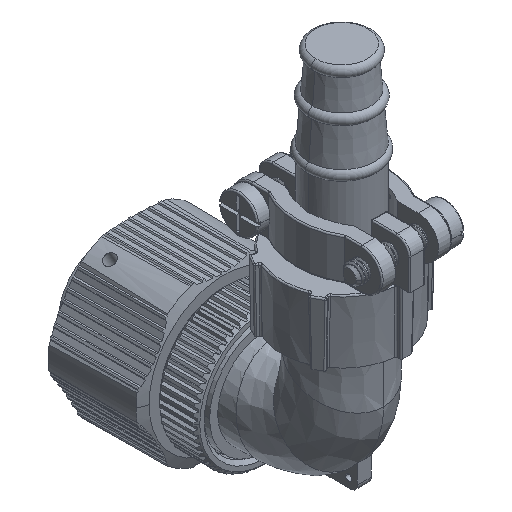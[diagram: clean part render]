
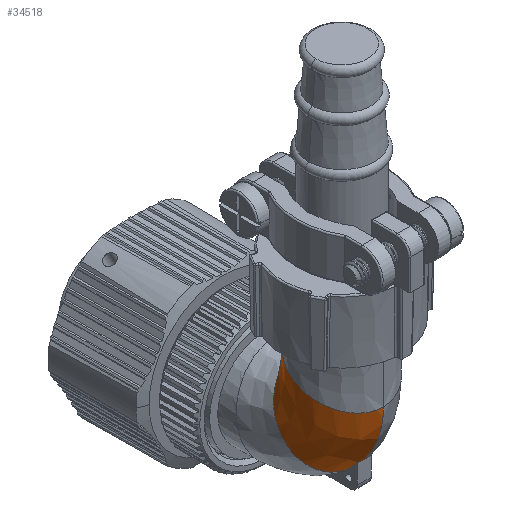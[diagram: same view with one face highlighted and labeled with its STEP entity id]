
A CAD part, isometric view. The second image highlights one B-rep face of the part: STEP entity #34518.
In plain terms, the highlighted free-form (B-spline) face has degree [3, 3] with [13, 4] control points.
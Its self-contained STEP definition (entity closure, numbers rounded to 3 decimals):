
#8429=CARTESIAN_POINT('',(12.492,14.016,-7.255));
#8474=CARTESIAN_POINT('',(11.492,4.616,-16.382));
#8475=CARTESIAN_POINT('',(11.492,4.779,-16.592));
#8476=CARTESIAN_POINT('',(11.492,5.118,-17.002));
#8477=CARTESIAN_POINT('',(11.492,5.664,-17.586));
#8478=CARTESIAN_POINT('',(11.492,6.05,-17.952));
#8479=CARTESIAN_POINT('',(11.492,6.249,-18.129));
#8481=CARTESIAN_POINT('',(11.492,6.249,-18.129));
#8482=CARTESIAN_POINT('',(10.952,6.297,-18.063));
#8483=CARTESIAN_POINT('',(9.567,6.521,-17.751));
#8484=CARTESIAN_POINT('',(7.612,7.283,-16.689));
#8485=CARTESIAN_POINT('',(6.116,8.58,-14.87));
#8486=CARTESIAN_POINT('',(5.591,10.107,-12.725));
#8487=CARTESIAN_POINT('',(6.116,11.635,-10.579));
#8488=CARTESIAN_POINT('',(7.612,12.935,-8.759));
#8489=CARTESIAN_POINT('',(9.851,13.809,-7.54));
#8490=CARTESIAN_POINT('',(11.612,14.016,-7.255));
#8491=CARTESIAN_POINT('',(12.492,14.016,-7.255));
#8493=CARTESIAN_POINT('',(12.492,1.816,-8.455));
#8494=CARTESIAN_POINT('',(11.674,1.816,-8.455));
#8495=CARTESIAN_POINT('',(10.04,2.138,-8.315));
#8496=CARTESIAN_POINT('',(7.961,3.501,-7.726));
#8497=CARTESIAN_POINT('',(6.572,5.528,-6.852));
#8498=CARTESIAN_POINT('',(6.084,7.915,-5.825));
#8499=CARTESIAN_POINT('',(6.572,10.302,-4.797));
#8500=CARTESIAN_POINT('',(7.961,12.33,-3.921));
#8501=CARTESIAN_POINT('',(10.04,13.693,-3.33));
#8502=CARTESIAN_POINT('',(11.674,14.016,-3.189));
#8503=CARTESIAN_POINT('',(12.492,14.016,-3.189));
#17312=CARTESIAN_POINT('',(12.492,4.616,
-16.511));
#17313=CARTESIAN_POINT('',(12.492,2.863,
-14.296));
#17314=CARTESIAN_POINT('',(12.492,1.816,
-11.496));
#17315=CARTESIAN_POINT('',(12.492,1.816,
-8.455));
#17329=CARTESIAN_POINT('',(12.492,14.016,
-3.189));
#17330=CARTESIAN_POINT('',(12.492,14.016,
-4.544));
#17331=CARTESIAN_POINT('',(12.492,14.016,
-5.899));
#17332=CARTESIAN_POINT('',(12.492,14.016,
-7.255));
#17383=CARTESIAN_POINT('',(11.492,4.616,
-16.382));
#17384=CARTESIAN_POINT('',(11.601,4.616,
-16.41));
#17385=CARTESIAN_POINT('',(11.82,4.616,
-16.458));
#17386=CARTESIAN_POINT('',(12.155,4.616,
-16.501));
#17387=CARTESIAN_POINT('',(12.379,4.616,
-16.511));
#17388=CARTESIAN_POINT('',(12.492,4.616,
-16.511));
#21935=VERTEX_POINT('',#8429);
#21936=VERTEX_POINT('',#8481);
#21945=VERTEX_POINT('',#8474);
#21952=VERTEX_POINT('',#8493);
#21953=VERTEX_POINT('',#8503);
#21954=VERTEX_POINT('',#17312);
#34453=CARTESIAN_POINT('',(12.71,14.014,
-7.306));
#34454=CARTESIAN_POINT('',(12.704,14.013,
-5.919));
#34455=CARTESIAN_POINT('',(12.698,14.013,
-4.532));
#34456=CARTESIAN_POINT('',(12.694,14.013,
-3.145));
#34457=CARTESIAN_POINT('',(12.637,14.015,
-7.304));
#34458=CARTESIAN_POINT('',(12.633,14.015,
-5.917));
#34459=CARTESIAN_POINT('',(12.629,14.015,
-4.531));
#34460=CARTESIAN_POINT('',(12.626,14.015,
-3.144));
#34461=CARTESIAN_POINT('',(11.683,14.024,
-7.291));
#34462=CARTESIAN_POINT('',(11.704,14.028,
-5.905));
#34463=CARTESIAN_POINT('',(11.727,14.029,
-4.521));
#34464=CARTESIAN_POINT('',(11.742,14.029,
-3.138));
#34465=CARTESIAN_POINT('',(9.849,13.812,
-7.589));
#34466=CARTESIAN_POINT('',(9.916,13.734,
-6.18));
#34467=CARTESIAN_POINT('',(9.991,13.688,
-4.737));
#34468=CARTESIAN_POINT('',(10.041,13.694,
-3.282));
#34469=CARTESIAN_POINT('',(7.608,12.948,
-8.812));
#34470=CARTESIAN_POINT('',(7.732,12.556,
-7.294));
#34471=CARTESIAN_POINT('',(7.871,12.314,
-5.609));
#34472=CARTESIAN_POINT('',(7.964,12.331,
-3.864));
#34473=CARTESIAN_POINT('',(6.11,11.665,
-10.638));
#34474=CARTESIAN_POINT('',(6.272,10.813,
-8.948));
#34475=CARTESIAN_POINT('',(6.455,10.281,
-6.9));
#34476=CARTESIAN_POINT('',(6.576,10.302,
-4.726));
#34477=CARTESIAN_POINT('',(5.585,10.155,
-12.791));
#34478=CARTESIAN_POINT('',(5.76,8.767,
-10.893));
#34479=CARTESIAN_POINT('',(5.957,7.895,
-8.417));
#34480=CARTESIAN_POINT('',(6.088,7.915,
-5.737));
#34481=CARTESIAN_POINT('',(6.11,8.647,
-14.943));
#34482=CARTESIAN_POINT('',(6.272,6.722,
-12.838));
#34483=CARTESIAN_POINT('',(6.455,5.509,
-9.933));
#34484=CARTESIAN_POINT('',(6.576,5.529,
-6.748));
#34485=CARTESIAN_POINT('',(7.608,7.365,
-16.768));
#34486=CARTESIAN_POINT('',(7.732,4.98,
-14.491));
#34487=CARTESIAN_POINT('',(7.871,3.477,
-11.222));
#34488=CARTESIAN_POINT('',(7.964,3.501,
-7.608));
#34489=CARTESIAN_POINT('',(9.849,6.504,
-17.989));
#34490=CARTESIAN_POINT('',(9.916,3.805,
-15.601));
#34491=CARTESIAN_POINT('',(9.991,2.106,
-12.09));
#34492=CARTESIAN_POINT('',(10.041,2.139,
-8.187));
#34493=CARTESIAN_POINT('',(11.683,6.293,
-18.287));
#34494=CARTESIAN_POINT('',(11.704,3.512,
-15.875));
#34495=CARTESIAN_POINT('',(11.727,1.764,
-12.305));
#34496=CARTESIAN_POINT('',(11.742,1.803,
-8.331));
#34497=CARTESIAN_POINT('',(12.637,6.302,
-18.274));
#34498=CARTESIAN_POINT('',(12.633,3.525,
-15.863));
#34499=CARTESIAN_POINT('',(12.629,1.779,
-12.296));
#34500=CARTESIAN_POINT('',(12.626,1.818,
-8.325));
#34501=CARTESIAN_POINT('',(12.71,6.303,
-18.272));
#34502=CARTESIAN_POINT('',(12.704,3.527,
-15.862));
#34503=CARTESIAN_POINT('',(12.698,1.781,
-12.294));
#34504=CARTESIAN_POINT('',(12.694,1.82,
-8.324));
#34505=B_SPLINE_SURFACE_WITH_KNOTS('',3,3,((#34453,#34454,#34455,#34456),
(#34457,#34458,#34459,#34460),(#34461,#34462,#34463,#34464),(#34465,#34466,
#34467,#34468),(#34469,#34470,#34471,#34472),(#34473,#34474,#34475,#34476),(
#34477,#34478,#34479,#34480),(#34481,#34482,#34483,#34484),(#34485,#34486,
#34487,#34488),(#34489,#34490,#34491,#34492),(#34493,#34494,#34495,#34496),(
#34497,#34498,#34499,#34500),(#34501,#34502,#34503,#34504)),.UNSPECIFIED.,.F.,
.F.,.F.,(4,1,1,1,1,1,1,1,1,1,4),(4,4),(0.495,0.5,0.563,0.625,
0.688,0.75,0.813,0.875,0.938,1.,1.005),(
0.411,0.764),.UNSPECIFIED.);
#34507=ORIENTED_EDGE('',*,*,#34506,.F.);
#34509=ORIENTED_EDGE('',*,*,#34508,.F.);
#34511=ORIENTED_EDGE('',*,*,#34510,.F.);
#34512=ORIENTED_EDGE('',*,*,#34437,.T.);
#34513=ORIENTED_EDGE('',*,*,#34338,.T.);
#34515=ORIENTED_EDGE('',*,*,#34514,.F.);
#34516=EDGE_LOOP('',(#34507,#34509,#34511,#34512,#34513,#34515));
#34517=FACE_OUTER_BOUND('',#34516,.F.);
#34518=ADVANCED_FACE('',(#34517),#34505,.T.);
#8480=B_SPLINE_CURVE_WITH_KNOTS('',3,(#8474,#8475,#8476,#8477,#8478,#8479),
.UNSPECIFIED.,.F.,.F.,(4,1,1,4),(0.,0.333,0.667,1.),
.UNSPECIFIED.);
#8492=B_SPLINE_CURVE_WITH_KNOTS('',3,(#8481,#8482,#8483,#8484,#8485,#8486,#8487,
#8488,#8489,#8490,#8491),.UNSPECIFIED.,.F.,.F.,(4,1,1,1,1,1,1,1,4),(0.,
0.081,0.213,0.344,0.475,
0.606,0.738,0.869,1.),.UNSPECIFIED.);
#8504=B_SPLINE_CURVE_WITH_KNOTS('',3,(#8493,#8494,#8495,#8496,#8497,#8498,#8499,
#8500,#8501,#8502,#8503),.UNSPECIFIED.,.F.,.F.,(4,1,1,1,1,1,1,1,4),(0.,
0.125,0.25,0.375,0.5,
0.625,0.75,0.875,1.),.UNSPECIFIED.);
#17316=B_SPLINE_CURVE_WITH_KNOTS('',3,(#17312,#17313,#17314,#17315),
.UNSPECIFIED.,.F.,.F.,(4,4),(0.,1.),.UNSPECIFIED.);
#17333=B_SPLINE_CURVE_WITH_KNOTS('',3,(#17329,#17330,#17331,#17332),
.UNSPECIFIED.,.F.,.F.,(4,4),(0.,1.),.UNSPECIFIED.);
#17389=B_SPLINE_CURVE_WITH_KNOTS('',3,(#17383,#17384,#17385,#17386,#17387,
#17388),.UNSPECIFIED.,.F.,.F.,(4,1,1,4),(0.,0.333,
0.667,1.),.UNSPECIFIED.);
#34338=EDGE_CURVE('',#21936,#21935,#8492,.T.);
#34437=EDGE_CURVE('',#21945,#21936,#8480,.T.);
#34506=EDGE_CURVE('',#21952,#21953,#8504,.T.);
#34508=EDGE_CURVE('',#21954,#21952,#17316,.T.);
#34510=EDGE_CURVE('',#21945,#21954,#17389,.T.);
#34514=EDGE_CURVE('',#21953,#21935,#17333,.T.);
